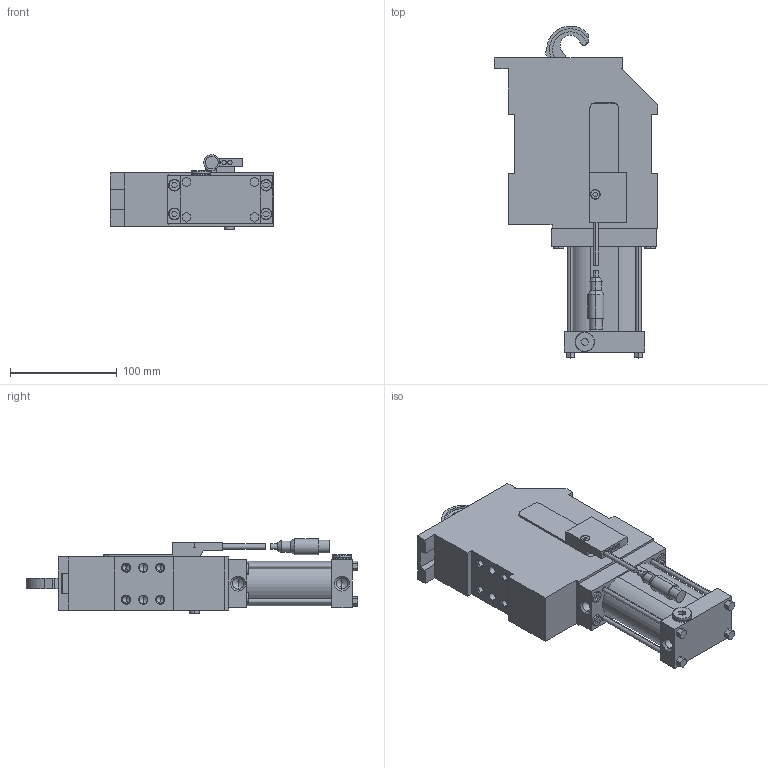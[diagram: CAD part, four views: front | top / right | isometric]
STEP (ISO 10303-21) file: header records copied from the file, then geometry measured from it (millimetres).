
FILE_DESCRIPTION (( 'STEP AP203' ), '1' );
FILE_NAME ('9811.2_dpa50.STEP', '2015-04-22T08:13:50', ( '' ), ( '' ), 'SwSTEP 2.0', 'SolidWorks 2015', '' );
FILE_SCHEMA (( 'CONFIG_CONTROL_DESIGN' ));
Length unit declared in the file: millimetre
Products named in the file (9): tappo_1_4_gas_din908_2_028; 9811.2_dpa50; gruppo_montante_dpa50; riparo_dpa50; gancio_dpa50_2; biella_gancio_dpa50; riparo_fc_dpa50; fc_induttivo_turck_55_dpa; rondella tappo 1_4 gas
Assembly tree (8 placements, depth 2):
  9811.2_dpa50
    gruppo_montante_dpa50
    riparo_dpa50
    gancio_dpa50_2
    biella_gancio_dpa50
    riparo_fc_dpa50
    fc_induttivo_turck_55_dpa
    rondella tappo 1_4 gas
    tappo_1_4_gas_din908_2_028
Bounding box: 153 x 311.56 x 70.2 mm (x, y, z)
Volume: 1156407.1 mm3; surface area: 183465.3 mm2
Topology: 9 solids, 9 shells, 581 faces, 1425 edges, 895 vertices
Faces by surface type: plane 305, cylinder 180, cone 90, bspline 6
Entity records: 18064 total; most frequent: CARTESIAN_POINT 3236, DIRECTION 2965, ORIENTED_EDGE 2782, EDGE_CURVE 1391, AXIS2_PLACEMENT_3D 1008, LINE 949, VECTOR 949, VERTEX_POINT 895
